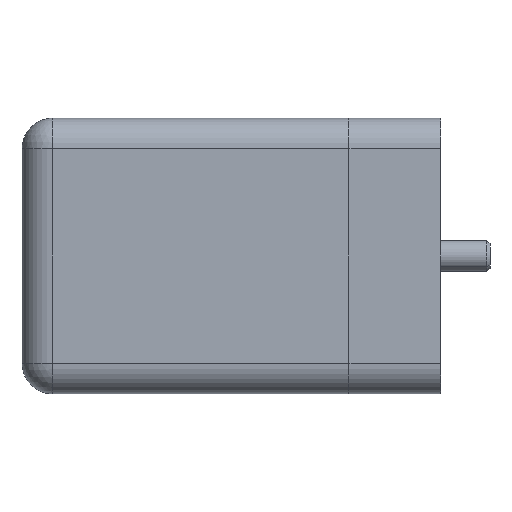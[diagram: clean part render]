
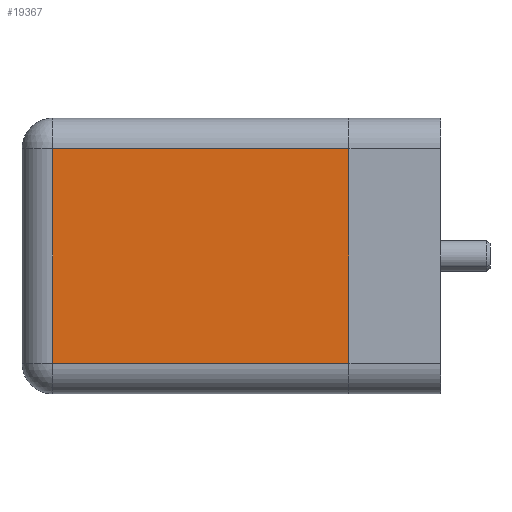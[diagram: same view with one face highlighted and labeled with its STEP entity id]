
A CAD part, left-side view. The second image highlights one B-rep face of the part: STEP entity #19367.
In plain terms, the highlighted planar face has unit normal (-1, 0, 0).
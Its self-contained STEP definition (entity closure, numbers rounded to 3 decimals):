
#1289=DIRECTION('',(0.,0.,-1.));
#1290=VECTOR('',#1289,21.);
#1291=CARTESIAN_POINT('',(0.,1.,24.));
#1292=LINE('',#1291,#1290);
#1325=DIRECTION('',(0.,1.,0.));
#1326=VECTOR('',#1325,29.);
#1327=CARTESIAN_POINT('',(0.,1.,24.));
#1328=LINE('',#1327,#1326);
#8014=DIRECTION('',(0.,0.,-1.));
#8015=VECTOR('',#8014,21.);
#8016=CARTESIAN_POINT('',(0.,30.,24.));
#8017=LINE('',#8016,#8015);
#8033=DIRECTION('',(0.,-1.,0.));
#8034=VECTOR('',#8033,29.);
#8035=CARTESIAN_POINT('',(0.,30.,3.));
#8036=LINE('',#8035,#8034);
#15370=CARTESIAN_POINT('',(0.,30.,3.));
#15371=VERTEX_POINT('',#15370);
#16753=CARTESIAN_POINT('',(0.,30.,24.));
#16754=VERTEX_POINT('',#16753);
#16925=CARTESIAN_POINT('',(0.,1.,24.));
#16926=CARTESIAN_POINT('',(0.,1.,3.));
#16927=VERTEX_POINT('',#16925);
#16928=VERTEX_POINT('',#16926);
#19353=CARTESIAN_POINT('',(0.,16.5,0.));
#19354=DIRECTION('',(-1.,0.,0.));
#19355=DIRECTION('',(0.,0.,1.));
#19356=AXIS2_PLACEMENT_3D('',#19353,#19354,#19355);
#19357=PLANE('',#19356);
#19359=ORIENTED_EDGE('',*,*,#19358,.F.);
#19360=ORIENTED_EDGE('',*,*,#19335,.T.);
#19362=ORIENTED_EDGE('',*,*,#19361,.F.);
#19364=ORIENTED_EDGE('',*,*,#19363,.F.);
#19365=EDGE_LOOP('',(#19359,#19360,#19362,#19364));
#19366=FACE_OUTER_BOUND('',#19365,.F.);
#19335=EDGE_CURVE('',#16927,#16928,#1292,.T.);
#19358=EDGE_CURVE('',#16927,#16754,#1328,.T.);
#19361=EDGE_CURVE('',#15371,#16928,#8036,.T.);
#19363=EDGE_CURVE('',#16754,#15371,#8017,.T.);
#19367=ADVANCED_FACE('',(#19366),#19357,.T.);
